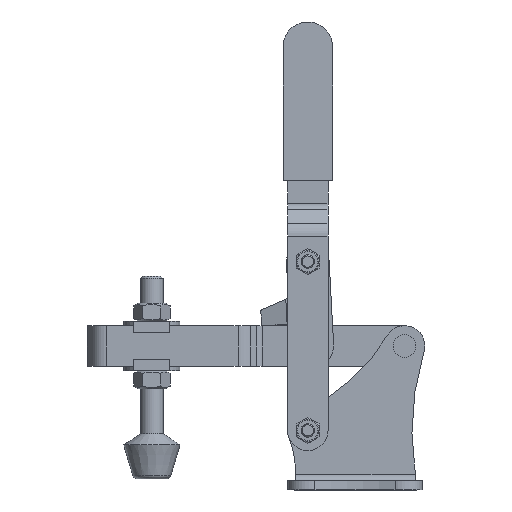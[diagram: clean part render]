
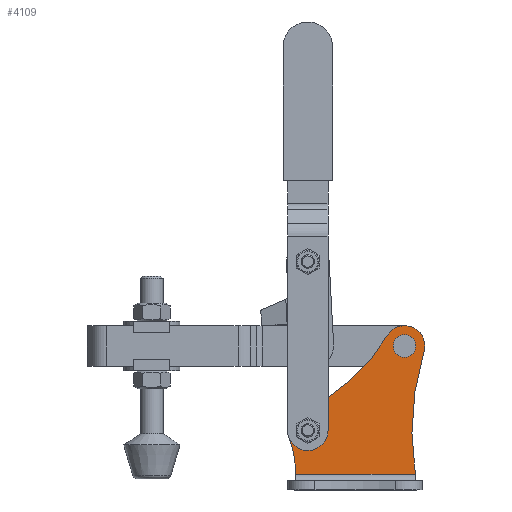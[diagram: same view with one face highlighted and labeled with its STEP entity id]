
A CAD part, front view. The second image highlights one B-rep face of the part: STEP entity #4109.
In plain terms, the highlighted planar face has unit normal (0, -1, 0).
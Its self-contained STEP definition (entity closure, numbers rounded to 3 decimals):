
#3573=CARTESIAN_POINT('Cartesian Point',(65.873,-8.,34.821)) ;
#3576=CARTESIAN_POINT('Axis2P3D Location',(35.392,-8.,108.787)) ;
#3580=CARTESIAN_POINT('Cartesian Point',(78.302,-8.,41.268)) ;
#3613=CARTESIAN_POINT('Cartesian Point',(63.813,-8.,7.)) ;
#3616=CARTESIAN_POINT('Axis2P3D Location',(23.832,-8.,8.24)) ;
#3620=CARTESIAN_POINT('Cartesian Point',(60.987,-8.,23.056)) ;
#3653=CARTESIAN_POINT('Cartesian Point',(120.877,-8.,61.269)) ;
#3656=CARTESIAN_POINT('Axis2P3D Location',(235.599,-8.,26.071)) ;
#3660=CARTESIAN_POINT('Cartesian Point',(117.124,-8.,7.)) ;
#3687=CARTESIAN_POINT('Axis2P3D Location',(35.392,-8.,108.787)) ;
#3691=CARTESIAN_POINT('Cartesian Point',(104.524,-8.,68.529)) ;
#3865=CARTESIAN_POINT('Line Origine',(90.802,-8.,7.)) ;
#4025=CARTESIAN_POINT('Axis2P3D Location',(60.302,-8.,73.)) ;
#4030=CARTESIAN_POINT('Axis2P3D Location',(69.302,-8.,26.5)) ;
#4034=CARTESIAN_POINT('Cartesian Point',(60.302,-8.,26.46)) ;
#4037=CARTESIAN_POINT('Axis2P3D Location',(69.302,-8.,26.5)) ;
#4042=CARTESIAN_POINT('Axis2P3D Location',(112.302,-8.,64.)) ;
#4046=CARTESIAN_POINT('Cartesian Point',(121.302,-8.,63.974)) ;
#4049=CARTESIAN_POINT('Axis2P3D Location',(112.302,-8.,64.)) ;
#4053=CARTESIAN_POINT('Cartesian Point',(112.334,-8.,73.)) ;
#4056=CARTESIAN_POINT('Axis2P3D Location',(112.302,-8.,64.)) ;
#4073=CARTESIAN_POINT('Axis2P3D Location',(69.302,-8.,26.5)) ;
#4077=CARTESIAN_POINT('Cartesian Point',(69.302,-8.,30.5)) ;
#4079=CARTESIAN_POINT('Cartesian Point',(69.302,-8.,22.5)) ;
#4082=CARTESIAN_POINT('Axis2P3D Location',(69.302,-8.,26.5)) ;
#4091=CARTESIAN_POINT('Axis2P3D Location',(112.302,-8.,64.)) ;
#4095=CARTESIAN_POINT('Cartesian Point',(112.302,-8.,68.)) ;
#4097=CARTESIAN_POINT('Cartesian Point',(112.302,-8.,60.)) ;
#4100=CARTESIAN_POINT('Axis2P3D Location',(112.302,-8.,64.)) ;
#3577=DIRECTION('Axis2P3D Direction',(0.,1.,0.)) ;
#3617=DIRECTION('Axis2P3D Direction',(0.,1.,0.)) ;
#3657=DIRECTION('Axis2P3D Direction',(0.,1.,0.)) ;
#3688=DIRECTION('Axis2P3D Direction',(0.,1.,0.)) ;
#3866=DIRECTION('Vector Direction',(-1.,0.,0.)) ;
#4026=DIRECTION('Axis2P3D Direction',(0.,1.,0.)) ;
#4027=DIRECTION('Axis2P3D XDirection',(1.,0.,0.)) ;
#4031=DIRECTION('Axis2P3D Direction',(0.,1.,0.)) ;
#4038=DIRECTION('Axis2P3D Direction',(0.,1.,0.)) ;
#4043=DIRECTION('Axis2P3D Direction',(0.,1.,0.)) ;
#4050=DIRECTION('Axis2P3D Direction',(0.,1.,0.)) ;
#4057=DIRECTION('Axis2P3D Direction',(0.,1.,0.)) ;
#4074=DIRECTION('Axis2P3D Direction',(0.,1.,0.)) ;
#4083=DIRECTION('Axis2P3D Direction',(0.,1.,0.)) ;
#4092=DIRECTION('Axis2P3D Direction',(0.,1.,0.)) ;
#4101=DIRECTION('Axis2P3D Direction',(0.,1.,0.)) ;
#3578=AXIS2_PLACEMENT_3D('Circle Axis2P3D',#3576,#3577,$) ;
#3618=AXIS2_PLACEMENT_3D('Circle Axis2P3D',#3616,#3617,$) ;
#3658=AXIS2_PLACEMENT_3D('Circle Axis2P3D',#3656,#3657,$) ;
#3689=AXIS2_PLACEMENT_3D('Circle Axis2P3D',#3687,#3688,$) ;
#4028=AXIS2_PLACEMENT_3D('Plane Axis2P3D',#4025,#4026,#4027) ;
#4032=AXIS2_PLACEMENT_3D('Circle Axis2P3D',#4030,#4031,$) ;
#4039=AXIS2_PLACEMENT_3D('Circle Axis2P3D',#4037,#4038,$) ;
#4044=AXIS2_PLACEMENT_3D('Circle Axis2P3D',#4042,#4043,$) ;
#4051=AXIS2_PLACEMENT_3D('Circle Axis2P3D',#4049,#4050,$) ;
#4058=AXIS2_PLACEMENT_3D('Circle Axis2P3D',#4056,#4057,$) ;
#4075=AXIS2_PLACEMENT_3D('Circle Axis2P3D',#4073,#4074,$) ;
#4084=AXIS2_PLACEMENT_3D('Circle Axis2P3D',#4082,#4083,$) ;
#4093=AXIS2_PLACEMENT_3D('Circle Axis2P3D',#4091,#4092,$) ;
#4102=AXIS2_PLACEMENT_3D('Circle Axis2P3D',#4100,#4101,$) ;
#4062=ORIENTED_EDGE('Oriented Edge',*,*,#4036,.F.) ;
#4063=ORIENTED_EDGE('Oriented Edge',*,*,#4041,.F.) ;
#4064=ORIENTED_EDGE('Oriented Edge',*,*,#3622,.T.) ;
#4065=ORIENTED_EDGE('Oriented Edge',*,*,#3869,.T.) ;
#4066=ORIENTED_EDGE('Oriented Edge',*,*,#3662,.T.) ;
#4067=ORIENTED_EDGE('Oriented Edge',*,*,#4048,.F.) ;
#4068=ORIENTED_EDGE('Oriented Edge',*,*,#4055,.F.) ;
#4069=ORIENTED_EDGE('Oriented Edge',*,*,#4060,.F.) ;
#4070=ORIENTED_EDGE('Oriented Edge',*,*,#3693,.T.) ;
#4071=ORIENTED_EDGE('Oriented Edge',*,*,#3582,.T.) ;
#4088=ORIENTED_EDGE('Oriented Edge',*,*,#4081,.F.) ;
#4089=ORIENTED_EDGE('Oriented Edge',*,*,#4086,.F.) ;
#4106=ORIENTED_EDGE('Oriented Edge',*,*,#4099,.F.) ;
#4107=ORIENTED_EDGE('Oriented Edge',*,*,#4104,.F.) ;
#4090=FACE_BOUND('Face Bound',#4087,.T.) ;
#4108=FACE_BOUND('Face Bound',#4105,.T.) ;
#3867=VECTOR('Line Direction',#3866,1.) ;
#4109=ADVANCED_FACE('',(#4072,#4090,#4108),#4029,.F.) ;
#3579=CIRCLE('generated circle',#3578,80.) ;
#3619=CIRCLE('generated circle',#3618,40.) ;
#3659=CIRCLE('generated circle',#3658,120.) ;
#3690=CIRCLE('generated circle',#3689,80.) ;
#4033=CIRCLE('generated circle',#4032,9.) ;
#4040=CIRCLE('generated circle',#4039,9.) ;
#4045=CIRCLE('generated circle',#4044,9.) ;
#4052=CIRCLE('generated circle',#4051,9.) ;
#4059=CIRCLE('generated circle',#4058,9.) ;
#4076=CIRCLE('generated circle',#4075,4.) ;
#4085=CIRCLE('generated circle',#4084,4.) ;
#4094=CIRCLE('generated circle',#4093,4.) ;
#4103=CIRCLE('generated circle',#4102,4.) ;
#3582=EDGE_CURVE('',#3581,#3574,#3579,.T.) ;
#3622=EDGE_CURVE('',#3621,#3614,#3619,.T.) ;
#3662=EDGE_CURVE('',#3661,#3654,#3659,.T.) ;
#3693=EDGE_CURVE('',#3692,#3581,#3690,.T.) ;
#3869=EDGE_CURVE('',#3614,#3661,#3868,.F.) ;
#4036=EDGE_CURVE('',#4035,#3574,#4033,.T.) ;
#4041=EDGE_CURVE('',#3621,#4035,#4040,.T.) ;
#4048=EDGE_CURVE('',#4047,#3654,#4045,.T.) ;
#4055=EDGE_CURVE('',#4054,#4047,#4052,.T.) ;
#4060=EDGE_CURVE('',#3692,#4054,#4059,.T.) ;
#4081=EDGE_CURVE('',#4078,#4080,#4076,.F.) ;
#4086=EDGE_CURVE('',#4080,#4078,#4085,.F.) ;
#4099=EDGE_CURVE('',#4096,#4098,#4094,.F.) ;
#4104=EDGE_CURVE('',#4098,#4096,#4103,.F.) ;
#4061=EDGE_LOOP('Oriented Loop',(#4062,#4063,#4064,#4065,#4066,#4067,#4068,#4069,#4070,#4071)) ;
#4087=EDGE_LOOP('Oriented Loop',(#4088,#4089)) ;
#4105=EDGE_LOOP('Oriented Loop',(#4106,#4107)) ;
#4072=FACE_OUTER_BOUND('Face Bound',#4061,.T.) ;
#3868=LINE('Line',#3865,#3867) ;
#4029=PLANE('Plane',#4028) ;
#3574=VERTEX_POINT('Vertex Point',#3573) ;
#3581=VERTEX_POINT('Vertex Point',#3580) ;
#3614=VERTEX_POINT('Vertex Point',#3613) ;
#3621=VERTEX_POINT('Vertex Point',#3620) ;
#3654=VERTEX_POINT('Vertex Point',#3653) ;
#3661=VERTEX_POINT('Vertex Point',#3660) ;
#3692=VERTEX_POINT('Vertex Point',#3691) ;
#4035=VERTEX_POINT('Vertex Point',#4034) ;
#4047=VERTEX_POINT('Vertex Point',#4046) ;
#4054=VERTEX_POINT('Vertex Point',#4053) ;
#4078=VERTEX_POINT('Vertex Point',#4077) ;
#4080=VERTEX_POINT('Vertex Point',#4079) ;
#4096=VERTEX_POINT('Vertex Point',#4095) ;
#4098=VERTEX_POINT('Vertex Point',#4097) ;
